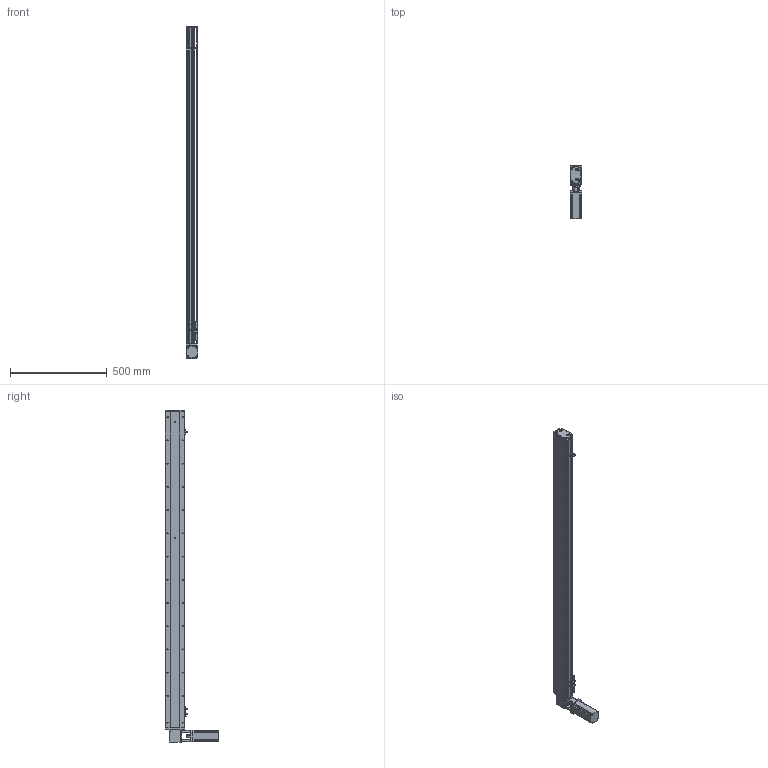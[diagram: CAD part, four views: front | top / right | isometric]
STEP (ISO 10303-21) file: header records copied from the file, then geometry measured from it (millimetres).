
FILE_DESCRIPTION (( 'STEP AP214' ), '1' );
FILE_NAME ('KSD100B-S1450-MLT-CM.STEP', '2019-11-11T05:29:53', ( '微软用户' ), ( '微软中国' ), 'SwSTEP 2.0', 'SolidWorks 2014', '' );
FILE_SCHEMA (( 'AUTOMOTIVE_DESIGN' ));
Length unit declared in the file: millimetre
Products named in the file (12): 100宽安装板同步带带电机座400W,86; 100遵鎮湛假蚾啣1 ; 100宽防尘板1450行程-同步带; U倰嫖萇EEㄜSX672; 覜茼え100遵圉猾敕; 台达ECMA－C20604AS伺服电机; 100宽马达安装板同步带右; 100宽同步带安装板半封闭; 100宽马达安装板同步带; 100遵傷啣肮祭湍; 100宽底板半封闭同步带1450行程; KSD100B-S1450-MLT-CM
Assembly tree (13 placements, depth 2):
  KSD100B-S1450-MLT-CM
    100宽底板半封闭同步带1450行程
    100遵傷啣肮祭湍
    100宽马达安装板同步带
    100宽同步带安装板半封闭
    100宽马达安装板同步带右
    台达ECMA－C20604AS伺服电机
    覜茼え100遵圉猾敕
    U倰嫖萇EEㄜSX672  x3
    100宽防尘板1450行程-同步带
    100遵鎮湛假蚾啣1 
    100宽安装板同步带带电机座400W,86
Bounding box: 61 x 275 x 1715 mm (x, y, z)
Volume: 3630934.5 mm3; surface area: 1212786.5 mm2
Topology: 14 solids, 14 shells, 1584 faces, 4477 edges, 2827 vertices
Faces by surface type: cylinder 826, plane 591, cone 167
Entity records: 56841 total; most frequent: CARTESIAN_POINT 12048, DIRECTION 7813, ORIENTED_EDGE 7526, EDGE_CURVE 3763, AXIS2_PLACEMENT_3D 2890, VERTEX_POINT 2451, LINE 2033, VECTOR 2033
